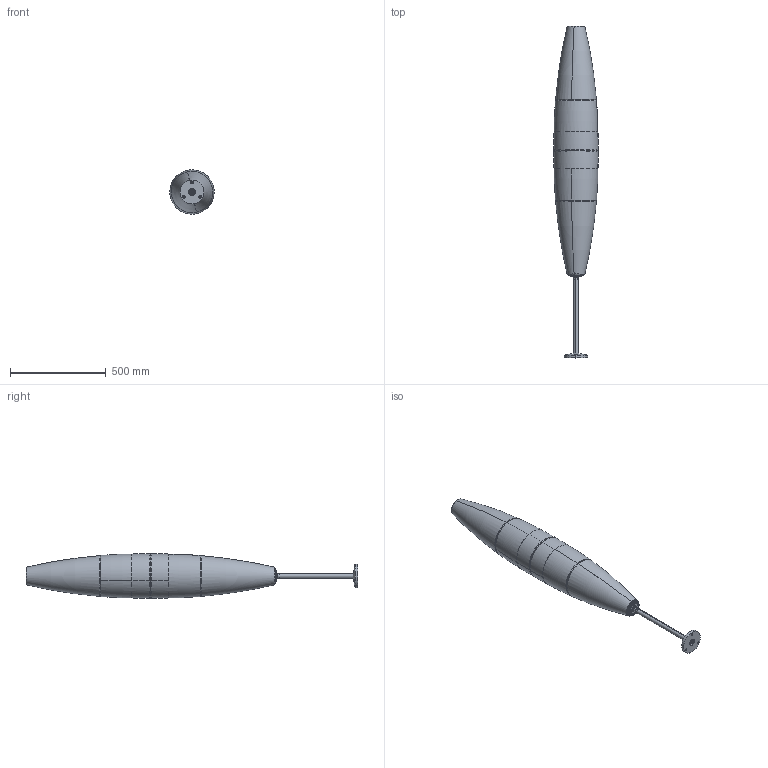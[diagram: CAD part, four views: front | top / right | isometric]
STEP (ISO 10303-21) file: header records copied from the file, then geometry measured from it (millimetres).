
FILE_DESCRIPTION (( 'STEP AP214' ), '1' );
FILE_NAME ('040_MONO_OF_PL_3D.STEP', '2021-05-06T07:54:26', ( '' ), ( '' ), 'SwSTEP 2.0', 'SolidWorks 2021', '' );
FILE_SCHEMA (( 'AUTOMOTIVE_DESIGN' ));
Length unit declared in the file: millimetre
Products named in the file (1): 040_MONO_OF_PL_3D
Bounding box: 231.38 x 1735 x 231.38 mm (x, y, z)
Volume: 2724734.1 mm3; surface area: 1699226.5 mm2
Topology: 5 solids, 5 shells, 401 faces, 953 edges, 564 vertices
Faces by surface type: cone 107, bspline 106, cylinder 96, torus 47, plane 40, sphere 5
Entity records: 56701 total; most frequent: CARTESIAN_POINT 43722, ORIENTED_EDGE 1872, DIRECTION 1682, EDGE_CURVE 936, AXIS2_PLACEMENT_3D 724, VERTEX_POINT 564, EDGE_LOOP 446, CIRCLE 428
